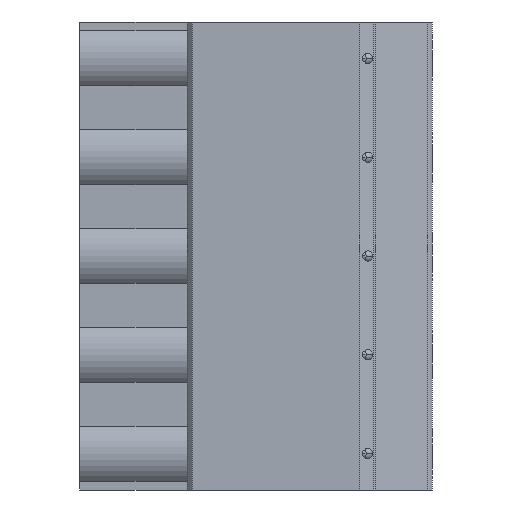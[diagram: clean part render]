
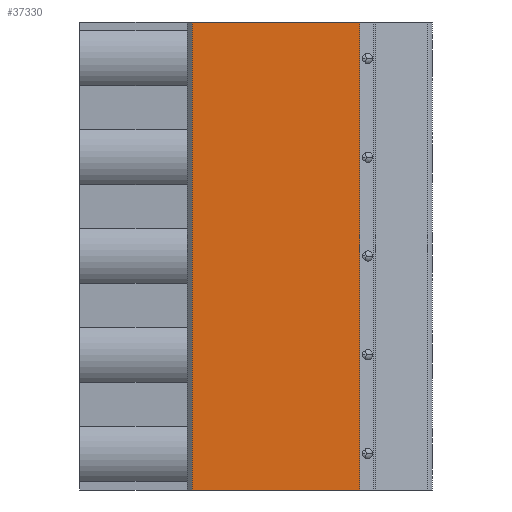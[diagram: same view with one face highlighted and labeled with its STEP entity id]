
A CAD part, front view. The second image highlights one B-rep face of the part: STEP entity #37330.
In plain terms, the highlighted planar face has unit normal (0, -1, 0).
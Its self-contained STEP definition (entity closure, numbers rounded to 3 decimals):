
#36940=CARTESIAN_POINT('',(-61.01,
   65.078,2.81));
#36950=DIRECTION('',(0.,-1.,
   0.));
#36960=DIRECTION('',(-1.,0.,
   0.));
#36970=AXIS2_PLACEMENT_3D('',#36940,#36950,#36960);
#36980=PLANE('',#36970);
#36990=CARTESIAN_POINT('',(0.,65.078
   ,-33.29));
#37000=DIRECTION('',(1.,0.,
   0.));
#37010=VECTOR('',#37000,1.);
#37020=LINE('',#36990,#37010);
#37030=CARTESIAN_POINT('',(-60.61,
   65.078,-33.29));
#37040=VERTEX_POINT('',#37030);
#37050=CARTESIAN_POINT('',(-47.71,
   65.078,-33.29));
#37060=VERTEX_POINT('',#37050);
#37070=EDGE_CURVE('',#37040,#37060,#37020,.T.);
#37080=ORIENTED_EDGE('',*,*,#37070,.T.);
#37090=CARTESIAN_POINT('',(-60.61,
   65.078,-22.86));
#37100=DIRECTION('',(0.,0.,
   -1.));
#37110=VECTOR('',#37100,1.);
#37120=LINE('',#37090,#37110);
#37130=CARTESIAN_POINT('',(-60.61,
   65.078,2.81));
#37140=VERTEX_POINT('',#37130);
#37150=EDGE_CURVE('',#37140,#37040,#37120,.T.);
#37160=ORIENTED_EDGE('',*,*,#37150,.T.);
#37170=CARTESIAN_POINT('',(0.,65.078
   ,2.81));
#37180=DIRECTION('',(-1.,0.,
   0.));
#37190=VECTOR('',#37180,1.);
#37200=LINE('',#37170,#37190);
#37210=CARTESIAN_POINT('',(-47.71,
   65.078,2.81));
#37220=VERTEX_POINT('',#37210);
#37230=EDGE_CURVE('',#37220,#37140,#37200,.T.);
#37240=ORIENTED_EDGE('',*,*,#37230,.T.);
#37250=CARTESIAN_POINT('',(-47.71,
   65.078,-22.86));
#37260=DIRECTION('',(0.,0.,
   -1.));
#37270=VECTOR('',#37260,1.);
#37280=LINE('',#37250,#37270);
#37290=EDGE_CURVE('',#37220,#37060,#37280,.T.);
#37300=ORIENTED_EDGE('',*,*,#37290,.F.);
#37310=EDGE_LOOP('',(#37300,#37240,#37160,#37080));
#37320=FACE_OUTER_BOUND('',#37310,.T.);
#37330=ADVANCED_FACE('',(#37320),#36980,.T.);
